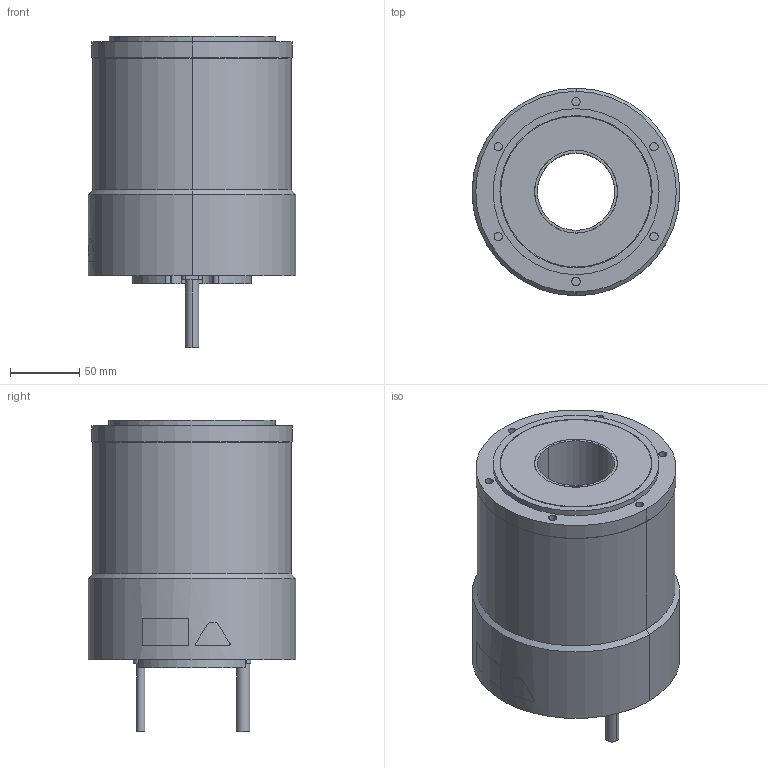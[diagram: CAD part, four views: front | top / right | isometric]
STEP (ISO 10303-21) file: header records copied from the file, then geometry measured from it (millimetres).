
FILE_DESCRIPTION (( 'STEP AP203' ), '1' );
FILE_NAME ('sgm7d_20j_c5_.STEP', '2016-02-23T02:13:41', ( '' ), ( '' ), 'SwSTEP 2.0', 'SolidWorks 2010', '' );
FILE_SCHEMA (( 'CONFIG_CONTROL_DESIGN' ));
Length unit declared in the file: millimetre
Products named in the file (1): sgm7d_20j_c5_
Bounding box: 150.06 x 150 x 225 mm (x, y, z)
Volume: 2420737.4 mm3; surface area: 151914.9 mm2
Topology: 1 solids, 1 shells, 170 faces, 397 edges, 262 vertices
Faces by surface type: cylinder 105, plane 56, bspline 5, cone 4
Entity records: 5276 total; most frequent: CARTESIAN_POINT 1131, DIRECTION 925, ORIENTED_EDGE 794, EDGE_CURVE 397, AXIS2_PLACEMENT_3D 378, VERTEX_POINT 262, CIRCLE 212, EDGE_LOOP 205
